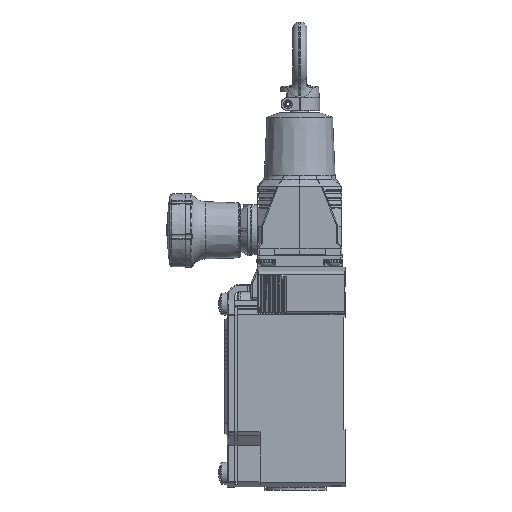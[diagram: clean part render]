
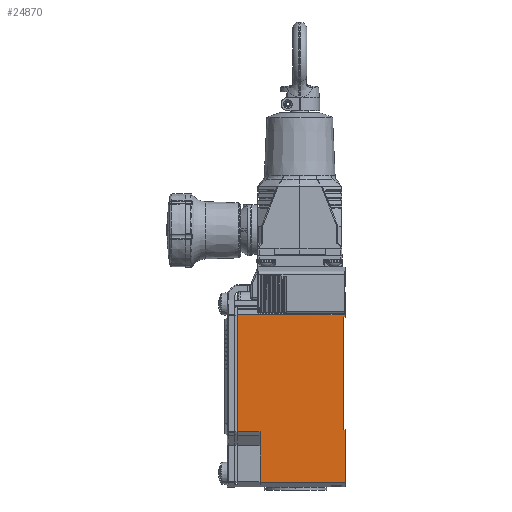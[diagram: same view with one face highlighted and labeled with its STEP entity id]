
A CAD part, left-side view. The second image highlights one B-rep face of the part: STEP entity #24870.
In plain terms, the highlighted planar face has unit normal (-1, 0, 0).
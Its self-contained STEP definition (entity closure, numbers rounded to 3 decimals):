
#595=DIRECTION('',(0.,1.,0.));
#596=VECTOR('',#595,0.5);
#597=CARTESIAN_POINT('',(-21.,-16.,-57.378));
#598=LINE('',#597,#596);
#616=DIRECTION('',(0.,0.,1.));
#617=VECTOR('',#616,39.628);
#618=CARTESIAN_POINT('',(-21.,-15.5,-57.378));
#619=LINE('',#618,#617);
#785=DIRECTION('',(0.,0.,1.));
#786=VECTOR('',#785,0.85);
#787=CARTESIAN_POINT('',(-21.,-16.,-17.75));
#788=LINE('',#787,#786);
#2137=DIRECTION('',(0.,0.,-1.));
#2138=VECTOR('',#2137,41.157);
#2139=CARTESIAN_POINT('',(-21.,22.,-16.9));
#2140=LINE('',#2139,#2138);
#3237=DIRECTION('',(0.,1.,0.));
#3238=VECTOR('',#3237,38.);
#3239=CARTESIAN_POINT('',(-21.,-16.,-16.9));
#3240=LINE('',#3239,#3238);
#3385=DIRECTION('',(0.,0.,1.));
#3386=VECTOR('',#3385,17.855);
#3387=CARTESIAN_POINT('',(-21.,14.,-75.912));
#3388=LINE('',#3387,#3386);
#3392=DIRECTION('',(0.,1.,0.));
#3393=VECTOR('',#3392,8.);
#3394=CARTESIAN_POINT('',(-21.,14.,-58.057));
#3395=LINE('',#3394,#3393);
#3399=DIRECTION('',(0.,1.,0.));
#3400=VECTOR('',#3399,0.5);
#3401=CARTESIAN_POINT('',(-21.,-16.,-17.75));
#3402=LINE('',#3401,#3400);
#3413=DIRECTION('',(0.,0.,1.));
#3414=VECTOR('',#3413,18.534);
#3415=CARTESIAN_POINT('',(-21.,-16.,-75.912));
#3416=LINE('',#3415,#3414);
#3516=DIRECTION('',(0.,-1.,0.));
#3517=VECTOR('',#3516,30.);
#3518=CARTESIAN_POINT('',(-21.,14.,-75.912));
#3519=LINE('',#3518,#3517);
#20378=CARTESIAN_POINT('',(-21.,-15.5,-57.378));
#20379=VERTEX_POINT('',#20378);
#20380=CARTESIAN_POINT('',(-21.,-15.5,-17.75));
#20381=VERTEX_POINT('',#20380);
#20430=CARTESIAN_POINT('',(-21.,-16.,-17.75));
#20431=VERTEX_POINT('',#20430);
#20448=CARTESIAN_POINT('',(-21.,-16.,-75.912));
#20449=VERTEX_POINT('',#20448);
#20450=CARTESIAN_POINT('',(-21.,-16.,-57.378));
#20451=VERTEX_POINT('',#20450);
#20530=CARTESIAN_POINT('',(-21.,-16.,-16.9));
#20531=VERTEX_POINT('',#20530);
#21168=CARTESIAN_POINT('',(-21.,14.,-75.912));
#21169=VERTEX_POINT('',#21168);
#21178=CARTESIAN_POINT('',(-21.,14.,-58.057));
#21179=VERTEX_POINT('',#21178);
#21209=CARTESIAN_POINT('',(-21.,22.,-16.9));
#21210=VERTEX_POINT('',#21209);
#21211=CARTESIAN_POINT('',(-21.,22.,-58.057));
#21212=VERTEX_POINT('',#21211);
#24849=CARTESIAN_POINT('',(-21.,-16.,-77.55));
#24850=DIRECTION('',(-1.,0.,0.));
#24851=DIRECTION('',(0.,0.,1.));
#24852=AXIS2_PLACEMENT_3D('',#24849,#24850,#24851);
#24853=PLANE('',#24852);
#24854=ORIENTED_EDGE('',*,*,#22542,.F.);
#24855=ORIENTED_EDGE('',*,*,#22522,.F.);
#24857=ORIENTED_EDGE('',*,*,#24856,.F.);
#24859=ORIENTED_EDGE('',*,*,#24858,.F.);
#24861=ORIENTED_EDGE('',*,*,#24860,.T.);
#24863=ORIENTED_EDGE('',*,*,#24862,.T.);
#24864=ORIENTED_EDGE('',*,*,#24036,.F.);
#24865=ORIENTED_EDGE('',*,*,#24655,.F.);
#24866=ORIENTED_EDGE('',*,*,#22687,.F.);
#24867=ORIENTED_EDGE('',*,*,#22595,.T.);
#24868=EDGE_LOOP('',(#24854,#24855,#24857,#24859,#24861,#24863,#24864,#24865,
#24866,#24867));
#24869=FACE_OUTER_BOUND('',#24868,.F.);
#22522=EDGE_CURVE('',#20451,#20379,#598,.T.);
#22542=EDGE_CURVE('',#20379,#20381,#619,.T.);
#22595=EDGE_CURVE('',#20431,#20381,#3402,.T.);
#22687=EDGE_CURVE('',#20431,#20531,#788,.T.);
#24036=EDGE_CURVE('',#21210,#21212,#2140,.T.);
#24655=EDGE_CURVE('',#20531,#21210,#3240,.T.);
#24856=EDGE_CURVE('',#20449,#20451,#3416,.T.);
#24858=EDGE_CURVE('',#21169,#20449,#3519,.T.);
#24860=EDGE_CURVE('',#21169,#21179,#3388,.T.);
#24862=EDGE_CURVE('',#21179,#21212,#3395,.T.);
#24870=ADVANCED_FACE('',(#24869),#24853,.T.);
